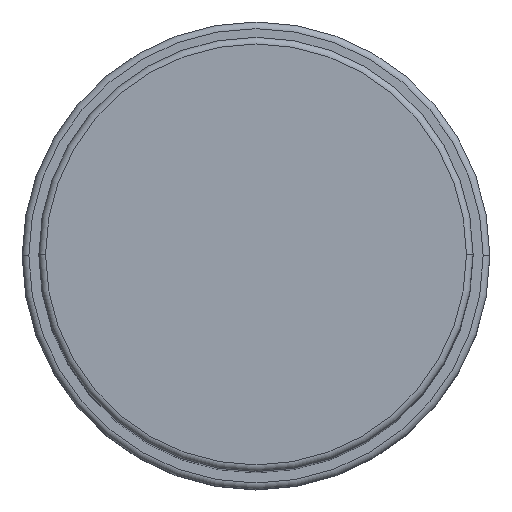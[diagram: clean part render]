
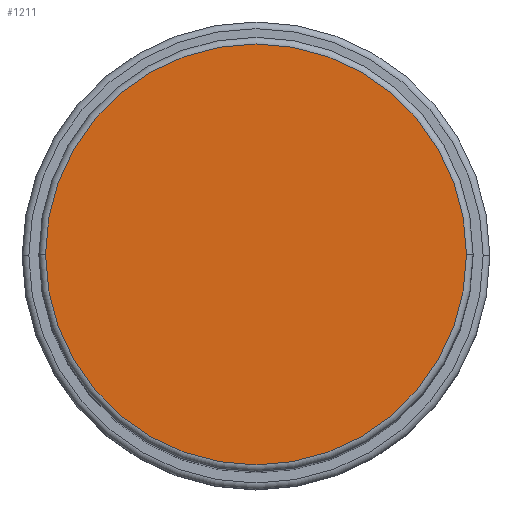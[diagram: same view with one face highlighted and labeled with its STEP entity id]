
A CAD part, top view. The second image highlights one B-rep face of the part: STEP entity #1211.
In plain terms, the highlighted planar face has unit normal (0, 0, 1).
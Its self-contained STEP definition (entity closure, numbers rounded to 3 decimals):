
#42 = CARTESIAN_POINT ( 'NONE',  ( 0., 0., 133. ) ) ;
#457 = DIRECTION ( 'NONE',  ( 1., 0., 0. ) ) ;
#606 = CARTESIAN_POINT ( 'NONE',  ( 0., 0., 133. ) ) ;
#682 = AXIS2_PLACEMENT_3D ( 'NONE', #606, #4806, #4860 ) ;
#816 = ORIENTED_EDGE ( 'NONE', *, *, #2700, .T. ) ;
#1053 = DIRECTION ( 'NONE',  ( 1., 0., 0. ) ) ;
#1203 = CARTESIAN_POINT ( 'NONE',  ( 31.5, 0., 133. ) ) ;
#1211 = ADVANCED_FACE ( 'NONE', ( #1729 ), #4659, .T. ) ;
#1243 = EDGE_LOOP ( 'NONE', ( #816, #5363 ) ) ;
#1362 = CIRCLE ( 'NONE', #4072, 31.5 ) ;
#1703 = CIRCLE ( 'NONE', #682, 31.5 ) ;
#1729 = FACE_OUTER_BOUND ( 'NONE', #1243, .T. ) ;
#1897 = CARTESIAN_POINT ( 'NONE',  ( 0., 0., 133. ) ) ;
#2700 = EDGE_CURVE ( 'NONE', #2922, #3849, #1362, .T. ) ;
#2794 = DIRECTION ( 'NONE',  ( 0., 0., 1. ) ) ;
#2922 = VERTEX_POINT ( 'NONE', #1203 ) ;
#2976 = DIRECTION ( 'NONE',  ( 0., 0., 1. ) ) ;
#3580 = AXIS2_PLACEMENT_3D ( 'NONE', #42, #2976, #457 ) ;
#3849 = VERTEX_POINT ( 'NONE', #4161 ) ;
#4072 = AXIS2_PLACEMENT_3D ( 'NONE', #1897, #2794, #1053 ) ;
#4161 = CARTESIAN_POINT ( 'NONE',  ( -31.5, 0., 133. ) ) ;
#4659 = PLANE ( 'NONE',  #3580 ) ;
#4806 = DIRECTION ( 'NONE',  ( 0., 0., 1. ) ) ;
#4860 = DIRECTION ( 'NONE',  ( 1., 0., 0. ) ) ;
#4904 = EDGE_CURVE ( 'NONE', #3849, #2922, #1703, .T. ) ;
#5363 = ORIENTED_EDGE ( 'NONE', *, *, #4904, .T. ) ;
